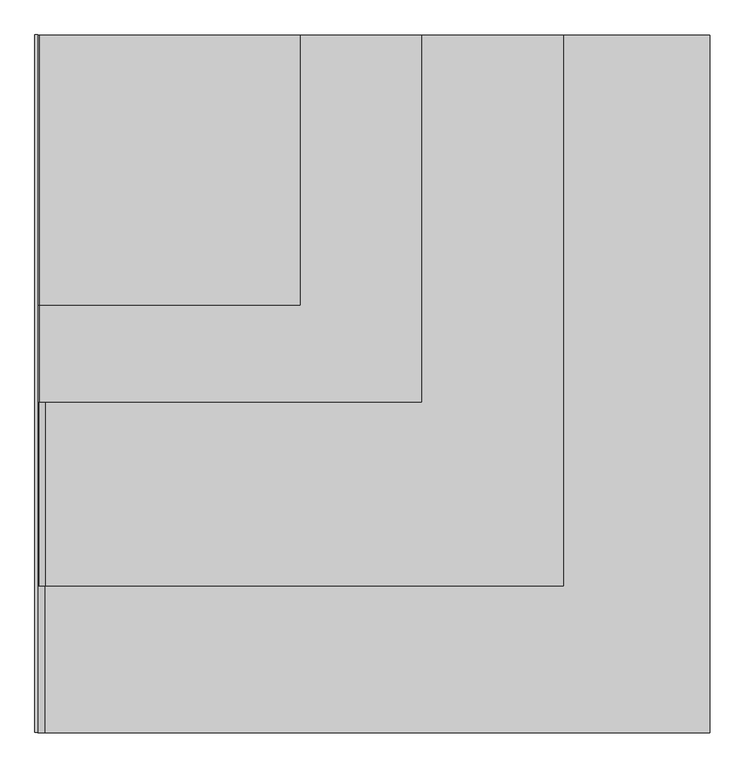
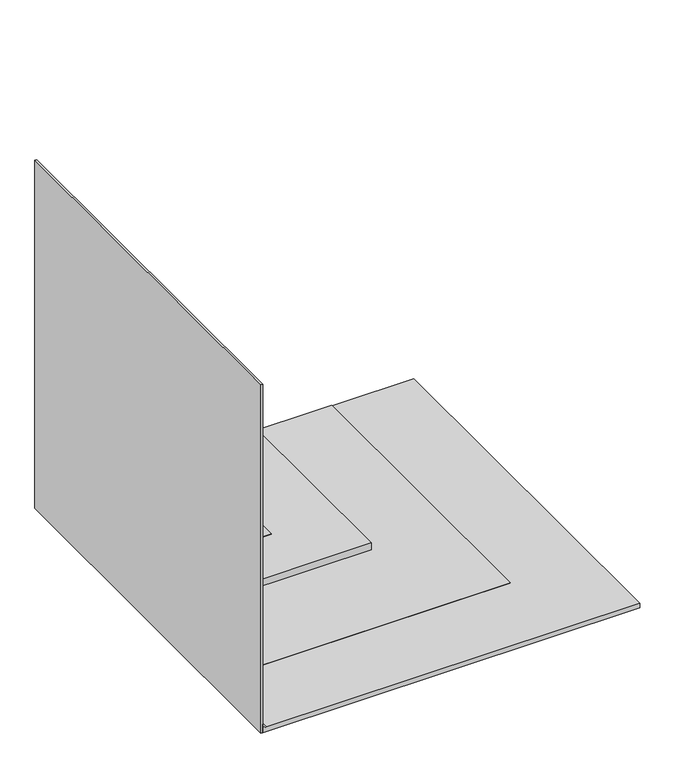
"""IFC4 building model written with IfcOpenShell, lengths in millimetres: proxy geometry, IMPER:IMPER:433934 : IMPER:IMPER:433934."""

from ifc_helpers import new_model, si_unit, point, frame, frame_2d, origin, place, context, project, spatial, polyline, circle_curve, trimmed, segment, composite_curve, outline, extrude, source, transform, mapped, element, save


def generic_models_97afe726(model_context):
    return source(origin(), model_context, "Body", "SweptSolid", [
        extrude(outline(polyline([(-351.9704105, 145.8700195), (-340.9591004, 145.8700195), (-340.9591004, -2514.1299805), (-351.9704105, -2514.1299805), (-351.9704105, 145.8700195)])), frame((0.0, 0.0, -2.523798), z_axis=(0.0, 0.0, 1.0), x_axis=(1.0, 0.0, 0.0)), (0.0, 0.0, 1.0), 2500.0),
        extrude(outline(composite_curve([segment(polyline([(28.5018705, 2221.8598581), (28.5018705, -313.1902924)]), True, "CONTINUOUS"), segment(trimmed(circle_curve(frame_2d((57.476202, -311.9704105)), 29.0), [point((28.5018705, -313.1902924))], [point((56.6663512, -340.9591004))], True, "CARTESIAN"), True, "CONTINUOUS"), segment(polyline([(56.6663512, -340.9591004), (-2.523798, -340.9591004), (-2.523798, 2221.8598581), (28.5018705, 2221.8598581)]), True, "CONTINUOUS")], self_intersect=False)), frame((0.0, -2514.1299805, 0.0), z_axis=(0.0, 1.0, 0.0), x_axis=(0.0, 0.0, 1.0)), (0.0, 0.0, 1.0), 2660.0),
        extrude(outline(composite_curve([segment(polyline([(56.7242861, -336.9591004), (82.5018705, -336.9591004), (82.5018705, -340.9591004), (56.6663512, -340.9591004)]), True, "CONTINUOUS"), segment(trimmed(circle_curve(frame_2d((57.476202, -311.9704105)), 29.0), [point((56.6663512, -340.9591004))], [point((28.5018705, -313.1902924))], False, "CARTESIAN"), True, "CONTINUOUS"), segment(polyline([(28.5018705, -313.1902924), (28.5018705, 1663.0408996), (32.5018705, 1663.0408996), (32.5018705, -313.1030023)]), True, "CONTINUOUS"), segment(trimmed(circle_curve(frame_2d((57.476202, -311.9704105)), 25.0), [point((32.5018705, -313.1030023))], [point((56.7242861, -336.9591004))], True, "CARTESIAN"), True, "CONTINUOUS")], self_intersect=False)), frame((0.0, -1954.1299805, 0.0), z_axis=(0.0, 1.0, 0.0), x_axis=(0.0, 0.0, 1.0)), (0.0, 0.0, 1.0), 2100.0),
        extrude(outline(composite_curve([segment(polyline([(32.5018705, -313.1030023), (32.5018705, 1123.0408996), (82.5018705, 1123.0408996), (82.5018705, -336.9591004), (56.7242861, -336.9591004)]), True, "CONTINUOUS"), segment(trimmed(circle_curve(frame_2d((57.476202, -311.9704105)), 25.0), [point((56.7242861, -336.9591004))], [point((32.5018705, -313.1030023))], False, "CARTESIAN"), True, "CONTINUOUS")], self_intersect=False)), frame((0.0, -1254.1299805, 0.0), z_axis=(0.0, 1.0, 0.0), x_axis=(0.0, 0.0, 1.0)), (0.0, 0.0, 1.0), 1400.0),
        extrude(outline(polyline([(-335.9591004, 145.8700195), (-335.9591004, -1254.1299805), (-340.9591004, -1254.1299805), (-340.9591004, 145.8700195), (-335.9591004, 145.8700195)])), frame((0.0, 0.0, 82.5018705), z_axis=(0.0, 0.0, 1.0), x_axis=(1.0, 0.0, 0.0)), (0.0, 0.0, 1.0), 5.0),
        extrude(outline(polyline([(82.5018705, 658.5255001), (87.5018705, 658.5255001), (87.5018705, -335.9591004), (176.4567461, -335.9591004), (176.4567461, -340.9591004), (82.5018705, -340.9591004), (82.5018705, 658.5255001)])), frame((0.0, -884.0129772, 0.0), z_axis=(0.0, 1.0, 0.0), x_axis=(0.0, 0.0, 1.0)), (0.0, 0.0, 1.0), 1029.8829967),
    ])


if __name__ == "__main__":
    model = new_model("IFC4")
    model_context = context("Model", 3, world=origin())
    ifc_project = project(units=[si_unit("LENGTHUNIT", "METRE", prefix="MILLI")], contexts=[model_context])
    site = spatial("IfcSite", under=ifc_project)
    building = spatial("IfcBuilding", under=site)
    placement = place(None, origin())
    generic_models_shape = generic_models_97afe726(model_context)
    element("IfcBuildingElementProxy", 1, Name="IMPER:IMPER:433934 : IMPER:IMPER:433934", ObjectType="IMPER:IMPER:433934 : IMPER:IMPER:433934", at=placement, inside=building, context=model_context, shape_type="MappedRepresentation", body=[
        mapped(generic_models_shape, transform((0.0, 0.0, 0.0), x_axis=(1.0, 0.0, 0.0), y_axis=(0.0, 1.0, 0.0), z_axis=(0.0, 0.0, 1.0))),
    ])
    save(model, "model.ifc")
